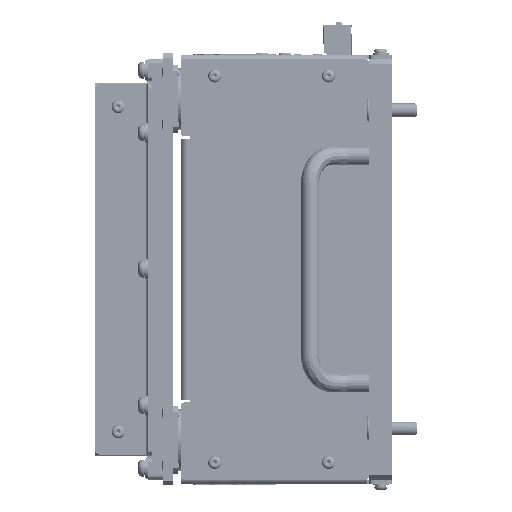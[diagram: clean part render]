
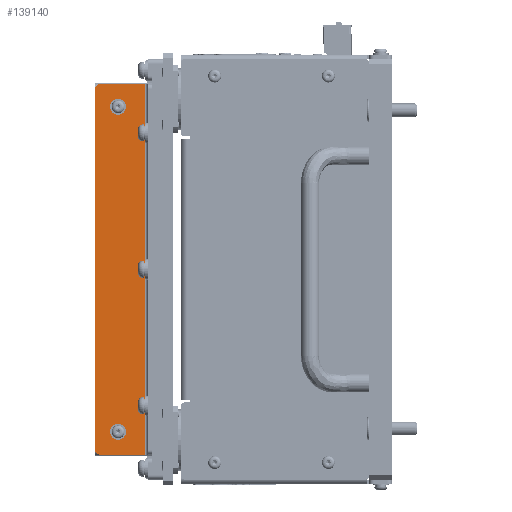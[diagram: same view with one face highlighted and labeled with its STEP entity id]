
A CAD part, left-side view. The second image highlights one B-rep face of the part: STEP entity #139140.
In plain terms, the highlighted planar face has unit normal (-1, 0, 0).
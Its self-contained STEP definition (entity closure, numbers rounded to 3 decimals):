
#320 = CARTESIAN_POINT ( 'NONE',  ( -113.701, 69.75, 98.848 ) ) ;
#2566 = ORIENTED_EDGE ( 'NONE', *, *, #347438, .F. ) ;
#14753 = CARTESIAN_POINT ( 'NONE',  ( -113.701, 79.75, -52.452 ) ) ;
#22989 = DIRECTION ( 'NONE',  ( 0., 0., -1. ) ) ;
#24110 = DIRECTION ( 'NONE',  ( 0., 1., 0. ) ) ;
#24486 = VERTEX_POINT ( 'NONE', #354294 ) ;
#24929 = EDGE_CURVE ( 'NONE', #310590, #328561, #319923, .T. ) ;
#58864 = EDGE_CURVE ( 'NONE', #351186, #24486, #487442, .T. ) ;
#58962 = AXIS2_PLACEMENT_3D ( 'NONE', #153949, #455011, #368452 ) ;
#60474 = VERTEX_POINT ( 'NONE', #537977 ) ;
#62784 = VECTOR ( 'NONE', #244262, 1000. ) ;
#68491 = FACE_OUTER_BOUND ( 'NONE', #180229, .T. ) ;
#72947 = DIRECTION ( 'NONE',  ( -1., 0., 0. ) ) ;
#81599 = ORIENTED_EDGE ( 'NONE', *, *, #413643, .F. ) ;
#86483 = DIRECTION ( 'NONE',  ( -1., 0., 0. ) ) ;
#107498 = EDGE_CURVE ( 'NONE', #60474, #147762, #175225, .T. ) ;
#130857 = AXIS2_PLACEMENT_3D ( 'NONE', #186399, #229683, #530842 ) ;
#133917 = VERTEX_POINT ( 'NONE', #545228 ) ;
#134216 = CIRCLE ( 'NONE', #58962, 1.7 ) ;
#138826 = VERTEX_POINT ( 'NONE', #207719 ) ;
#139140 = ADVANCED_FACE ( 'NONE', ( #283999, #385080, #68491 ), #403944, .F. ) ;
#147762 = VERTEX_POINT ( 'NONE', #479248 ) ;
#153168 = LINE ( 'NONE', #272321, #362066 ) ;
#153949 = CARTESIAN_POINT ( 'NONE',  ( -113.701, 69.75, -42.452 ) ) ;
#154125 = CARTESIAN_POINT ( 'NONE',  ( -113.701, 54.75, 110.548 ) ) ;
#161422 = DIRECTION ( 'NONE',  ( 0., 0., 1. ) ) ;
#170340 = LINE ( 'NONE', #291239, #62784 ) ;
#175225 = CIRCLE ( 'NONE', #130857, 2. ) ;
#180229 = EDGE_LOOP ( 'NONE', ( #484082, #449999, #385330, #353608, #485709, #488979 ) ) ;
#186399 = CARTESIAN_POINT ( 'NONE',  ( -113.701, 77.75, -50.452 ) ) ;
#190449 = AXIS2_PLACEMENT_3D ( 'NONE', #332642, #72947, #161422 ) ;
#197197 = CIRCLE ( 'NONE', #190449, 1.7 ) ;
#207719 = CARTESIAN_POINT ( 'NONE',  ( -113.701, 57.75, -52.452 ) ) ;
#212745 = DIRECTION ( 'NONE',  ( 0., 0., 1. ) ) ;
#223172 = ORIENTED_EDGE ( 'NONE', *, *, #371860, .F. ) ;
#227518 = EDGE_LOOP ( 'NONE', ( #287785, #2566 ) ) ;
#229683 = DIRECTION ( 'NONE',  ( -1., 0., 0. ) ) ;
#236866 = DIRECTION ( 'NONE',  ( 0., 0., -1. ) ) ;
#244262 = DIRECTION ( 'NONE',  ( 0., -1., 0. ) ) ;
#264067 = EDGE_CURVE ( 'NONE', #133917, #138826, #153168, .T. ) ;
#266106 = AXIS2_PLACEMENT_3D ( 'NONE', #344358, #86483, #212745 ) ;
#272321 = CARTESIAN_POINT ( 'NONE',  ( -113.701, 57.75, 110.548 ) ) ;
#273931 = EDGE_CURVE ( 'NONE', #147762, #138826, #170340, .T. ) ;
#280923 = DIRECTION ( 'NONE',  ( -1., 0., 0. ) ) ;
#281512 = CARTESIAN_POINT ( 'NONE',  ( -113.701, 67.25, 29.048 ) ) ;
#282110 = VECTOR ( 'NONE', #24110, 1000. ) ;
#283999 = FACE_BOUND ( 'NONE', #553150, .T. ) ;
#287205 = DIRECTION ( 'NONE',  ( 0., 0., -1. ) ) ;
#287785 = ORIENTED_EDGE ( 'NONE', *, *, #24929, .F. ) ;
#291239 = CARTESIAN_POINT ( 'NONE',  ( -113.701, 54.75, -52.452 ) ) ;
#295702 = CARTESIAN_POINT ( 'NONE',  ( -113.701, 69.75, -40.752 ) ) ;
#298750 = CARTESIAN_POINT ( 'NONE',  ( -113.701, 77.75, 110.548 ) ) ;
#307726 = LINE ( 'NONE', #14753, #314218 ) ;
#309780 = CIRCLE ( 'NONE', #545156, 1.7 ) ;
#310590 = VERTEX_POINT ( 'NONE', #355021 ) ;
#314218 = VECTOR ( 'NONE', #236866, 1000. ) ;
#319923 = CIRCLE ( 'NONE', #266106, 1.7 ) ;
#328561 = VERTEX_POINT ( 'NONE', #320 ) ;
#332642 = CARTESIAN_POINT ( 'NONE',  ( -113.701, 69.75, -42.452 ) ) ;
#344358 = CARTESIAN_POINT ( 'NONE',  ( -113.701, 69.75, 100.548 ) ) ;
#347438 = EDGE_CURVE ( 'NONE', #328561, #310590, #309780, .T. ) ;
#351186 = VERTEX_POINT ( 'NONE', #298750 ) ;
#353608 = ORIENTED_EDGE ( 'NONE', *, *, #264067, .F. ) ;
#354294 = CARTESIAN_POINT ( 'NONE',  ( -113.701, 79.75, 108.548 ) ) ;
#355021 = CARTESIAN_POINT ( 'NONE',  ( -113.701, 69.75, 102.248 ) ) ;
#362066 = VECTOR ( 'NONE', #287205, 1000. ) ;
#365982 = EDGE_CURVE ( 'NONE', #24486, #60474, #307726, .T. ) ;
#368452 = DIRECTION ( 'NONE',  ( 0., 0., 1. ) ) ;
#371860 = EDGE_CURVE ( 'NONE', #432221, #434858, #197197, .T. ) ;
#373630 = DIRECTION ( 'NONE',  ( 0., 0., -1. ) ) ;
#374111 = CARTESIAN_POINT ( 'NONE',  ( -113.701, 69.75, 100.548 ) ) ;
#385080 = FACE_BOUND ( 'NONE', #227518, .T. ) ;
#385330 = ORIENTED_EDGE ( 'NONE', *, *, #273931, .T. ) ;
#385809 = EDGE_CURVE ( 'NONE', #133917, #351186, #396626, .T. ) ;
#387309 = CARTESIAN_POINT ( 'NONE',  ( -113.701, 69.75, -44.152 ) ) ;
#396626 = LINE ( 'NONE', #154125, #282110 ) ;
#403944 = PLANE ( 'NONE',  #494975 ) ;
#413643 = EDGE_CURVE ( 'NONE', #434858, #432221, #134216, .T. ) ;
#413651 = DIRECTION ( 'NONE',  ( 0., 0., 1. ) ) ;
#432221 = VERTEX_POINT ( 'NONE', #295702 ) ;
#434858 = VERTEX_POINT ( 'NONE', #387309 ) ;
#449999 = ORIENTED_EDGE ( 'NONE', *, *, #107498, .T. ) ;
#450256 = CARTESIAN_POINT ( 'NONE',  ( -113.701, 77.75, 108.548 ) ) ;
#452734 = DIRECTION ( 'NONE',  ( 1., 0., 0. ) ) ;
#455011 = DIRECTION ( 'NONE',  ( -1., 0., 0. ) ) ;
#479248 = CARTESIAN_POINT ( 'NONE',  ( -113.701, 77.75, -52.452 ) ) ;
#484082 = ORIENTED_EDGE ( 'NONE', *, *, #365982, .T. ) ;
#485709 = ORIENTED_EDGE ( 'NONE', *, *, #385809, .T. ) ;
#487442 = CIRCLE ( 'NONE', #512233, 2. ) ;
#488979 = ORIENTED_EDGE ( 'NONE', *, *, #58864, .T. ) ;
#494975 = AXIS2_PLACEMENT_3D ( 'NONE', #281512, #452734, #373630 ) ;
#512233 = AXIS2_PLACEMENT_3D ( 'NONE', #450256, #280923, #22989 ) ;
#530842 = DIRECTION ( 'NONE',  ( 0., 0., -1. ) ) ;
#537977 = CARTESIAN_POINT ( 'NONE',  ( -113.701, 79.75, -50.452 ) ) ;
#543577 = DIRECTION ( 'NONE',  ( -1., 0., 0. ) ) ;
#545156 = AXIS2_PLACEMENT_3D ( 'NONE', #374111, #543577, #413651 ) ;
#545228 = CARTESIAN_POINT ( 'NONE',  ( -113.701, 57.75, 110.548 ) ) ;
#553150 = EDGE_LOOP ( 'NONE', ( #223172, #81599 ) ) ;
